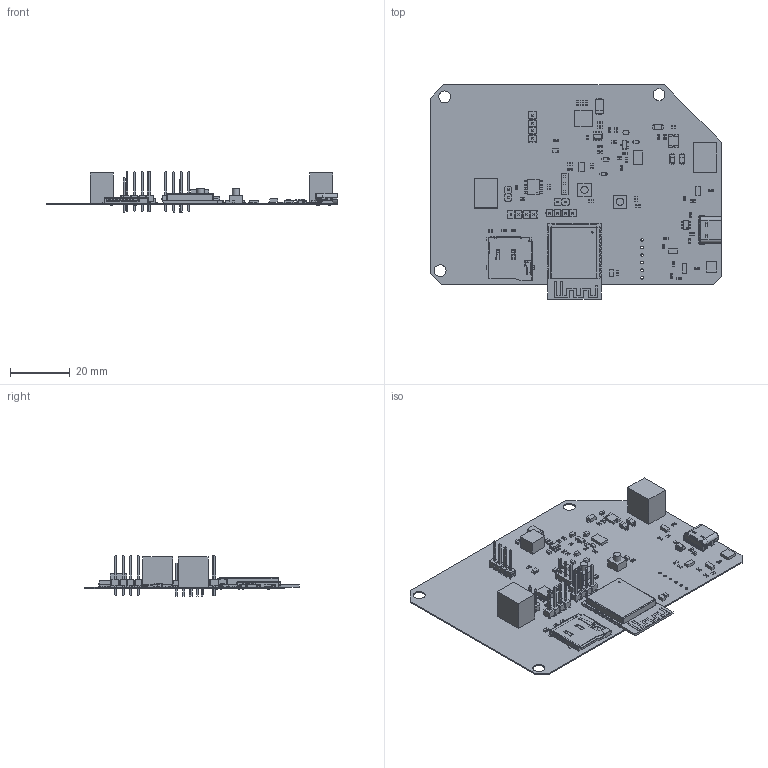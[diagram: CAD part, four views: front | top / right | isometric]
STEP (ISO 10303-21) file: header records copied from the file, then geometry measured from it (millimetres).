
FILE_DESCRIPTION(('Open CASCADE Model'),'2;1');
FILE_NAME('Open CASCADE Shape Model','2026-11-15T14:09:28',('Author'),( 'Open CASCADE'),'Open CASCADE STEP processor 7.5','Open CASCADE 7.5' ,'Unknown');
FILE_SCHEMA(('AUTOMOTIVE_DESIGN { 1 0 10303 214 1 1 1 1 }'));
Length unit declared in the file: millimetre
Products named in the file (135): PCB; Board; Open CASCADE STEP translator 7.5 1.1.1; R3; C0603; C5; CircuitWorks-CAPACITOR 0603; D203; sod-323f_RGB8421504; Open CASCADE STEP translator 7.5 1.4.1.1; Open CASCADE STEP translator 7.5 1.4.1.2; Open CASCADE STEP translator 7.5 1.4.1.3; D201; D200; D202; F100; 8361386112; C205; C204; U1; 8361385920; R210; Q201; 8526960192; Extruded; 5; 5-146278-3--3DModel-STEP-1; 1; PH1-02-UA; R206; R202; D206; 8527013680; U200; 8528090416; SW1; 8526871008; 8526870768; Cylinder; R205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
Assembly tree (186 placements, depth 4):
  PCB
    Board
      Open CASCADE STEP translator 7.5 1.1.1
    R3
      C0603
    C5
      CircuitWorks-CAPACITOR 0603
    D203
      sod-323f_RGB8421504
        Open CASCADE STEP translator 7.5 1.4.1.1
        Open CASCADE STEP translator 7.5 1.4.1.2
        Open CASCADE STEP translator 7.5 1.4.1.3
    D201
      sod-323f_RGB8421504
        Open CASCADE STEP translator 7.5 1.4.1.1
        Open CASCADE STEP translator 7.5 1.4.1.2
        Open CASCADE STEP translator 7.5 1.4.1.3
    D200
      sod-323f_RGB8421504
        Open CASCADE STEP translator 7.5 1.4.1.1
        Open CASCADE STEP translator 7.5 1.4.1.2
        Open CASCADE STEP translator 7.5 1.4.1.3
    D202
      sod-323f_RGB8421504
        Open CASCADE STEP translator 7.5 1.4.1.1
        Open CASCADE STEP translator 7.5 1.4.1.2
        Open CASCADE STEP translator 7.5 1.4.1.3
    F100
      8361386112
    C205
      CircuitWorks-CAPACITOR 0603
    C204
      CircuitWorks-CAPACITOR 0603
    U1
      8361385920
    R210
      C0603
    Q201
      8526960192
        Extruded
    5
      5-146278-3--3DModel-STEP-1
    1
      PH1-02-UA
    R206
      C0603
    R202
      C0603
    D206
      8527013680
        Extruded
    U200
      8528090416
        Extruded
    SW1
      8526871008
        Extruded
      8526870768
        Cylinder
    R205
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Bounding box: 97.72 x 72.05 x 13.7 mm (x, y, z)
Volume: 5769.8 mm3; surface area: 20230.2 mm2
Topology: 239 solids, 239 shells, 7845 faces, 19556 edges, 12109 vertices
Faces by surface type: plane 4817, cylinder 1546, bspline 1106, sphere 266, torus 48, revolution 32, cone 30
Full cylindrical faces by diameter (mm): 0.088 x1, 0.199 x1, 0.65 x2, 0.888 x25, 1.4 x4, 2.44 x2, 4 x3
Entity records: 144906 total; most frequent: CARTESIAN_POINT 29908, ORIENTED_EDGE 22634, DIRECTION 21906, EDGE_CURVE 11317, LINE 9246, VECTOR 9246, VERTEX_POINT 7223, AXIS2_PLACEMENT_3D 6322
